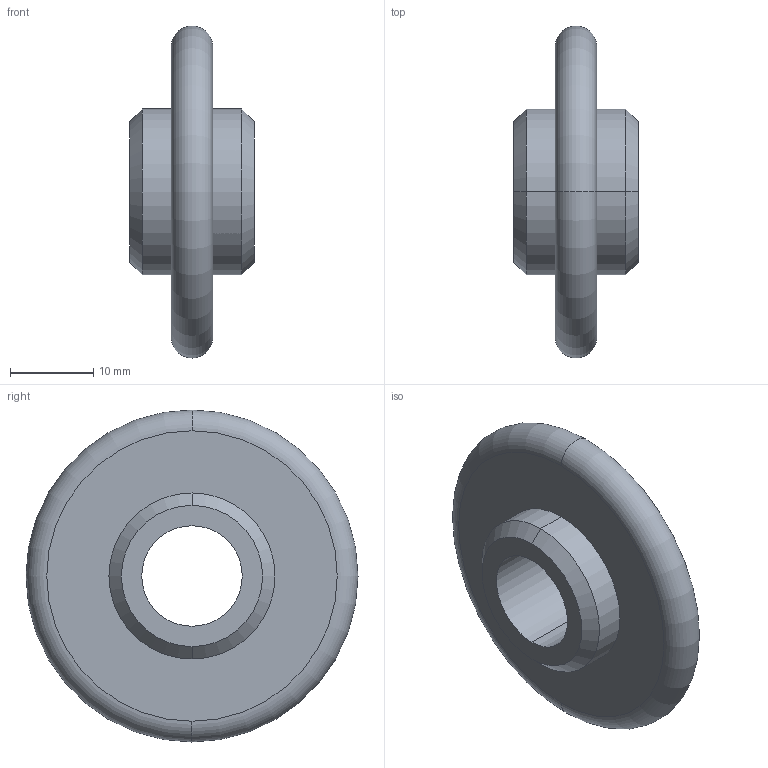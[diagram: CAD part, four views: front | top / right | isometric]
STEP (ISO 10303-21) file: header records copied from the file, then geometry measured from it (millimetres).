
FILE_DESCRIPTION (( 'STEP AP203' ), '1' );
FILE_NAME ('084.802.041.STEP', '2013-01-29T13:46:04', ( 'Alusic' ), ( 'Alusic' ), 'SwSTEP 2.0', 'SolidWorks 2011', '' );
FILE_SCHEMA (( 'CONFIG_CONTROL_DESIGN' ));
Length unit declared in the file: millimetre
Products named in the file (1): 084.802.041
Bounding box: 15 x 40 x 40 mm (x, y, z)
Volume: 7237.9 mm3; surface area: 3718.6 mm2
Topology: 1 solids, 1 shells, 16 faces, 32 edges, 20 vertices
Faces by surface type: cylinder 6, cone 4, plane 4, torus 2
Entity records: 507 total; most frequent: DIRECTION 88, CARTESIAN_POINT 69, ORIENTED_EDGE 64, AXIS2_PLACEMENT_3D 39, EDGE_CURVE 32, CIRCLE 22, EDGE_LOOP 20, VERTEX_POINT 20
